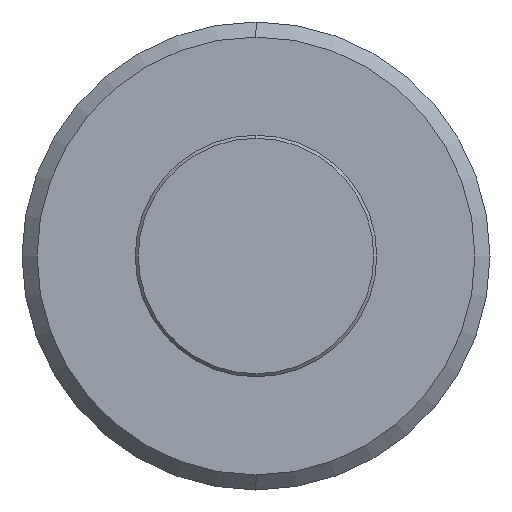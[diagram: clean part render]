
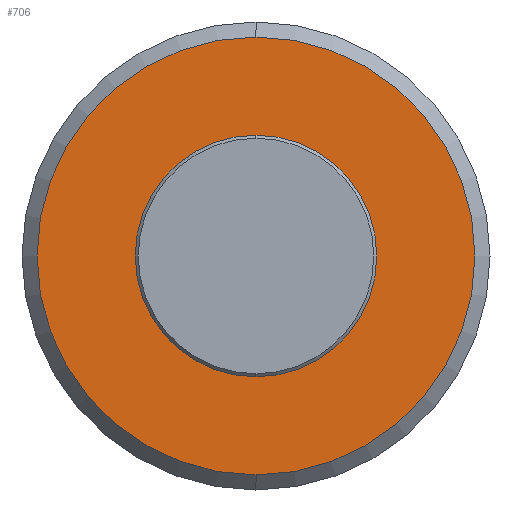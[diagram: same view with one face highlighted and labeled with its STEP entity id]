
A CAD part, left-side view. The second image highlights one B-rep face of the part: STEP entity #706.
In plain terms, the highlighted planar face has unit normal (-1, 0, 0).
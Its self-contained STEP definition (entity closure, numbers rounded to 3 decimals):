
#17 = ORIENTED_EDGE ( 'NONE', *, *, #191, .F. ) ;
#97 = AXIS2_PLACEMENT_3D ( 'NONE', #872, #391, #159 ) ;
#134 = CARTESIAN_POINT ( 'NONE',  ( -24.026, 0., 0. ) ) ;
#137 = CIRCLE ( 'NONE', #1021, 8. ) ;
#159 = DIRECTION ( 'NONE',  ( 0., 0., 1. ) ) ;
#160 = CARTESIAN_POINT ( 'NONE',  ( -24.026, 0., 8. ) ) ;
#191 = EDGE_CURVE ( 'NONE', #488, #462, #137, .T. ) ;
#224 = DIRECTION ( 'NONE',  ( 0., 0., 1. ) ) ;
#273 = CARTESIAN_POINT ( 'NONE',  ( -24.026, 0., 0. ) ) ;
#307 = DIRECTION ( 'NONE',  ( -1., 0., 0. ) ) ;
#315 = DIRECTION ( 'NONE',  ( 0., 0., 1. ) ) ;
#323 = CARTESIAN_POINT ( 'NONE',  ( -24.026, 0., -8. ) ) ;
#339 = ORIENTED_EDGE ( 'NONE', *, *, #393, .T. ) ;
#384 = CARTESIAN_POINT ( 'NONE',  ( -24.026, 0., 14.5 ) ) ;
#391 = DIRECTION ( 'NONE',  ( -1., 0., 0. ) ) ;
#393 = EDGE_CURVE ( 'NONE', #518, #729, #678, .T. ) ;
#402 = CARTESIAN_POINT ( 'NONE',  ( -24.026, 0., 0. ) ) ;
#462 = VERTEX_POINT ( 'NONE', #160 ) ;
#488 = VERTEX_POINT ( 'NONE', #323 ) ;
#518 = VERTEX_POINT ( 'NONE', #877 ) ;
#594 = AXIS2_PLACEMENT_3D ( 'NONE', #273, #920, #846 ) ;
#637 = DIRECTION ( 'NONE',  ( -1., 0., 0. ) ) ;
#647 = CARTESIAN_POINT ( 'NONE',  ( -24.026, 0., 0. ) ) ;
#667 = EDGE_CURVE ( 'NONE', #462, #488, #869, .T. ) ;
#678 = CIRCLE ( 'NONE', #594, 14.5 ) ;
#690 = DIRECTION ( 'NONE',  ( 0., 0., 1. ) ) ;
#706 = ADVANCED_FACE ( 'NONE', ( #896, #944 ), #885, .T. ) ;
#729 = VERTEX_POINT ( 'NONE', #384 ) ;
#745 = EDGE_LOOP ( 'NONE', ( #749, #17 ) ) ;
#749 = ORIENTED_EDGE ( 'NONE', *, *, #667, .F. ) ;
#750 = AXIS2_PLACEMENT_3D ( 'NONE', #134, #1007, #690 ) ;
#751 = EDGE_LOOP ( 'NONE', ( #339, #848 ) ) ;
#846 = DIRECTION ( 'NONE',  ( 0., 0., 1. ) ) ;
#848 = ORIENTED_EDGE ( 'NONE', *, *, #852, .T. ) ;
#852 = EDGE_CURVE ( 'NONE', #729, #518, #1030, .T. ) ;
#869 = CIRCLE ( 'NONE', #987, 8. ) ;
#872 = CARTESIAN_POINT ( 'NONE',  ( -24.026, 0., 0. ) ) ;
#877 = CARTESIAN_POINT ( 'NONE',  ( -24.026, 0., -14.5 ) ) ;
#885 = PLANE ( 'NONE',  #97 ) ;
#896 = FACE_OUTER_BOUND ( 'NONE', #751, .T. ) ;
#920 = DIRECTION ( 'NONE',  ( -1., 0., 0. ) ) ;
#944 = FACE_BOUND ( 'NONE', #745, .T. ) ;
#987 = AXIS2_PLACEMENT_3D ( 'NONE', #402, #307, #224 ) ;
#1007 = DIRECTION ( 'NONE',  ( -1., 0., 0. ) ) ;
#1021 = AXIS2_PLACEMENT_3D ( 'NONE', #647, #637, #315 ) ;
#1030 = CIRCLE ( 'NONE', #750, 14.5 ) ;
